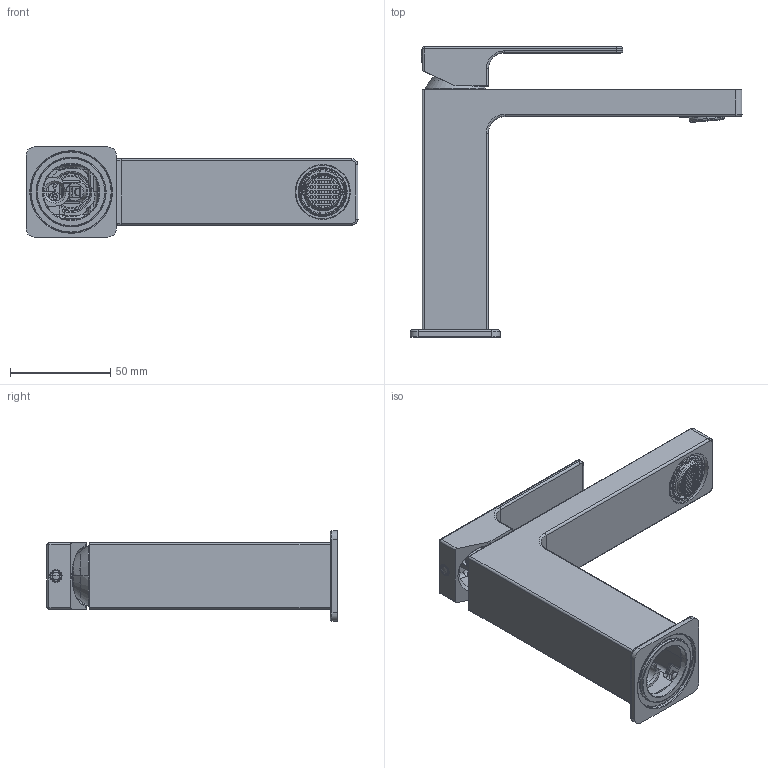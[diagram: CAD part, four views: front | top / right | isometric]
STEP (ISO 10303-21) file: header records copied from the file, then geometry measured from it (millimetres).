
FILE_DESCRIPTION(('STEP AP214'),'2;1');
FILE_NAME('DIS_3D_F004WU.stp','2022-03-28T11:55:49',(''),(''),'2015.2.119','THINKDESIGN','');
FILE_SCHEMA(('AUTOMOTIVE_DESIGN'));
Length unit declared in the file: millimetre
Products named in the file (1): top
Bounding box: 165.57 x 144.67 x 45 mm (x, y, z)
Volume: 113159.5 mm3; surface area: 72808.7 mm2
Topology: 9 solids, 9 shells, 3928 faces, 10532 edges, 7020 vertices
Faces by surface type: plane 2922, bspline 590, cylinder 416
Entity records: 189237 total; most frequent: CARTESIAN_POINT 63666, ORIENTED_EDGE 20824, DIRECTION 14950, EDGE_CURVE 10412, VERTEX_POINT 6862, VECTOR 5874, LINE 5874, AXIS2_PLACEMENT_3D 4538
